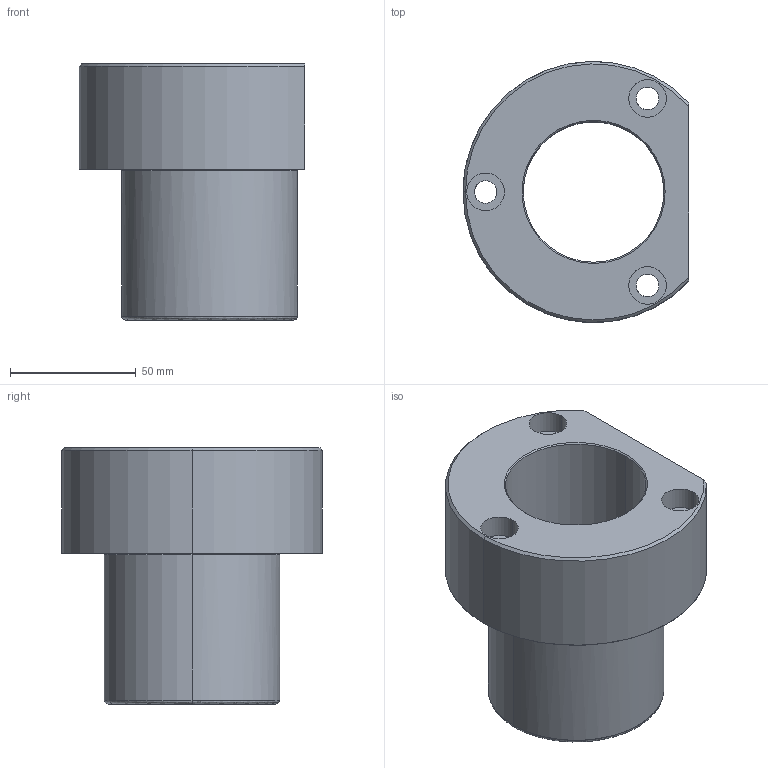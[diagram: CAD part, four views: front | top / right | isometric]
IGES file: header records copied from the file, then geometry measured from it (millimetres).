
Start section: START RECORD GO HERE.
Global section: file name: 737-48.igs; native system: DASSAULT SYSTEMES CATIA V5 R20 - www.3ds.com; preprocessor: CATIA Version 5 Release 20 ; author: Utente; organization: NB04-ASUS; date: 20210117.180059; units: millimetre
Bounding box: 90 x 103.95 x 102 mm (x, y, z)
Surface area: 58902 mm2 (no closed solid volume)
Topology: 0 solids, 0 shells, 37 faces, 164 edges, 164 vertices
Faces by surface type: revolution 30, plane 7
